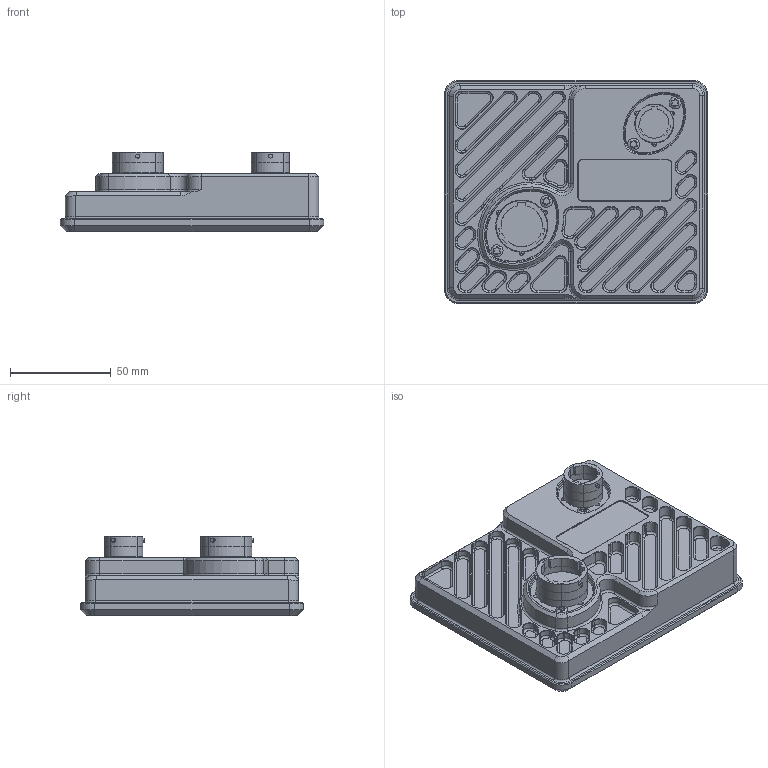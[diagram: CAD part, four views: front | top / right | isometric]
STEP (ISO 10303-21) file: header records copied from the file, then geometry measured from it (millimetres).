
FILE_DESCRIPTION(('CATIA V5 STEP Exchange'),'2;1');
FILE_NAME('T:\GDI8\240223_sent_to_KK_LFR\GDI8 External Surfaces 240823.stp','2024-02-23T11:05:32+00:00',('none'),('none'),'CATIA Version 5 Release 19 SP 9 (IN-10)','CATIA V5 STEP AP214','none');
FILE_SCHEMA(('AUTOMOTIVE_DESIGN { 1 0 10303 214 1 1 1 1 }'));
Length unit declared in the file: millimetre
Products named in the file (1): GDI8 Assembly_AllCATPart
Bounding box: 131 x 111 x 39.76 mm (x, y, z)
Surface area: 53888.7 mm2 (no closed solid volume)
Topology: 0 solids, 265 shells, 1143 faces, 4113 edges, 3146 vertices
Faces by surface type: cylinder 460, plane 289, cone 161, torus 145, bspline 56, sphere 32
Entity records: 38201 total; most frequent: CARTESIAN_POINT 10265, ORIENTED_EDGE 5542, DIRECTION 4345, EDGE_CURVE 2987, AXIS2_PLACEMENT_3D 2141, VERTEX_POINT 1974, VECTOR 1247, LINE 1247
